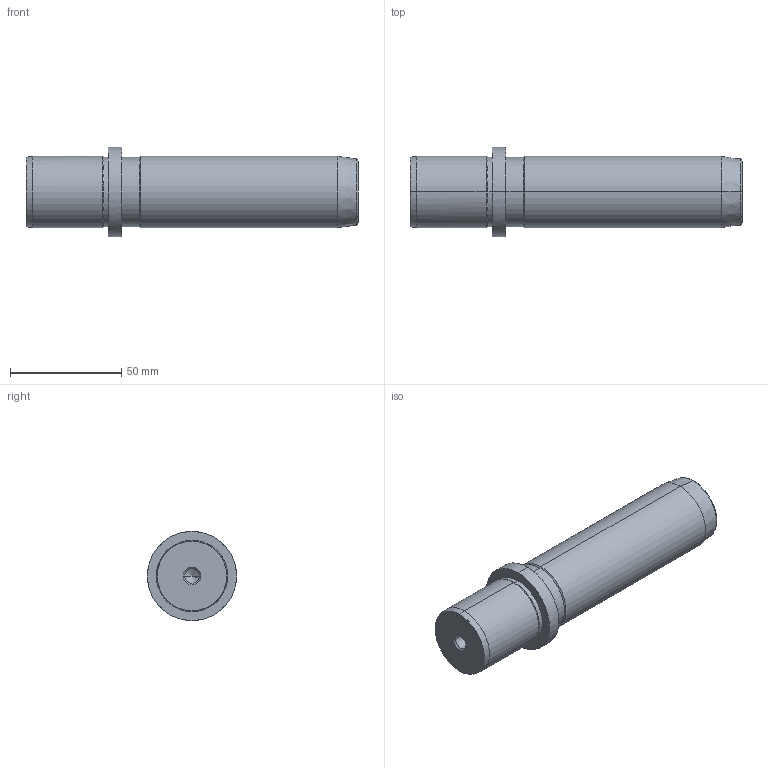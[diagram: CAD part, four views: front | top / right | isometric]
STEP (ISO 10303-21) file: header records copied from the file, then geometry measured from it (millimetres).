
FILE_DESCRIPTION(('CATIA V5 STEP Exchange'),'2;1');
FILE_NAME('C:\Users\Utente\Desktop\IO LAVORO\3D X SITO CF\X SITO\719\719-32x112.stp','2021-01-03T16:00:04+00:00',('none'),('none'),'CATIA Version 5 Release 20 GA (IN-10)','CATIA V5 STEP AP203','none');
FILE_SCHEMA(('CONFIG_CONTROL_DESIGN'));
Length unit declared in the file: millimetre
Products named in the file (1): 719-32x112
Bounding box: 149 x 40 x 40 mm (x, y, z)
Volume: 119664 mm3; surface area: 18519 mm2
Topology: 1 solids, 1 shells, 36 faces, 100 edges, 66 vertices
Faces by surface type: cone 16, cylinder 14, plane 4, torus 2
Entity records: 1270 total; most frequent: CARTESIAN_POINT 339, ORIENTED_EDGE 192, DIRECTION 158, EDGE_CURVE 96, AXIS2_PLACEMENT_3D 93, VERTEX_POINT 66, CIRCLE 56, EDGE_LOOP 40
